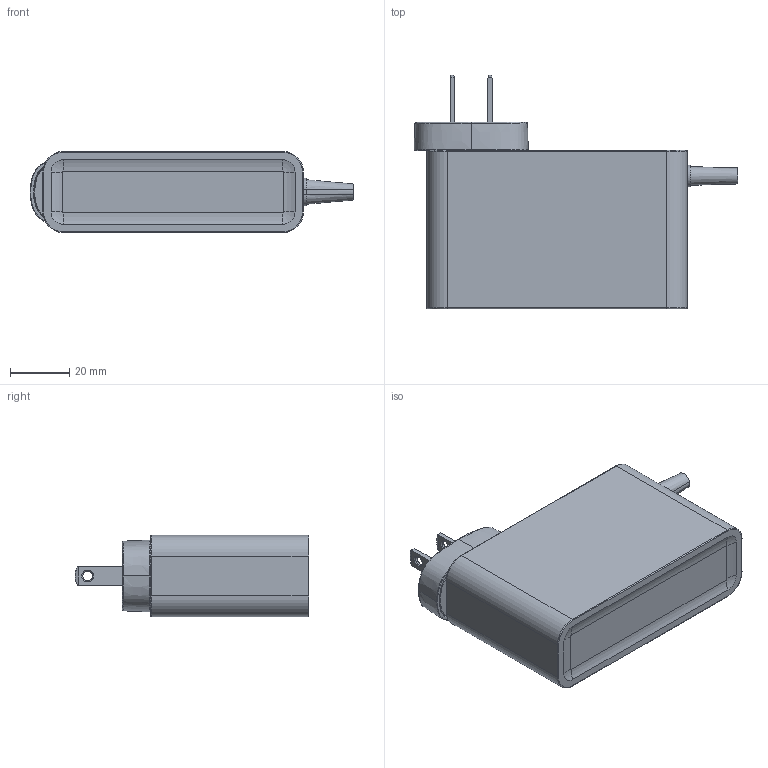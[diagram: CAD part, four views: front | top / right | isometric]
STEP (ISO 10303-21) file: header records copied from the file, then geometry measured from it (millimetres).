
FILE_DESCRIPTION((''),'2;1');
FILE_NAME('30W_ASM_ASM','2016-12-22T',('TONY.CH.YU'),(''),'PRO/ENGINEER BY PARAMETRIC TECHNOLOGY CORPORATION, 2009360','PRO/ENGINEER BY PARAMETRIC TECHNOLOGY CORPORATION, 2009360','');
FILE_SCHEMA(('CONFIG_CONTROL_DESIGN'));
Length unit declared in the file: millimetre
Products named in the file (16): 30W_CHASSIS-05_1_1; 30W_COVER-05_1_1; 30W_LATCH-05_1_1; 30W_SPRING-05_1_1; 10HW_PIN_1_1; 30W_TERMINAL_1_1; 30W_LATCH_HOLDER-05_1_1; ADP18TB_SR; US-PIN__W___ANY_1; TERMINAL_0412__W___ANY_1; RING_1__W___ANY_1; US_COVER__W___ANY_1; US_ASM_ANY_ASM_2_ASM; AP-1D13-0007I_AP10_US_CN_COVER_; US_ASM_ASM; 30W_ASM_ASM
Assembly tree (19 placements, depth 4):
  30W_ASM_ASM
    30W_CHASSIS-05_1_1
    30W_COVER-05_1_1
    30W_LATCH-05_1_1
    30W_SPRING-05_1_1
    10HW_PIN_1_1  x2
    30W_TERMINAL_1_1  x2
    30W_LATCH_HOLDER-05_1_1
    ADP18TB_SR
    US_ASM_ASM
      US_ASM_ANY_ASM_2_ASM
        US-PIN__W___ANY_1  x2
        TERMINAL_0412__W___ANY_1  x2
        RING_1__W___ANY_1
        US_COVER__W___ANY_1
      AP-1D13-0007I_AP10_US_CN_COVER_
Bounding box: 109.39 x 79 x 27.5 mm (x, y, z)
Volume: 46016.6 mm3; surface area: 46519.5 mm2
Topology: 17 solids, 17 shells, 2717 faces, 7381 edges, 4745 vertices
Faces by surface type: plane 1608, cylinder 533, cone 212, bspline 212, torus 109, sphere 37, extrusion 6
Entity records: 92716 total; most frequent: CARTESIAN_POINT 31343, ORIENTED_EDGE 13554, DIRECTION 11446, EDGE_CURVE 6777, VECTOR 4538, LINE 4532, VERTEX_POINT 4397, AXIS2_PLACEMENT_3D 3454
